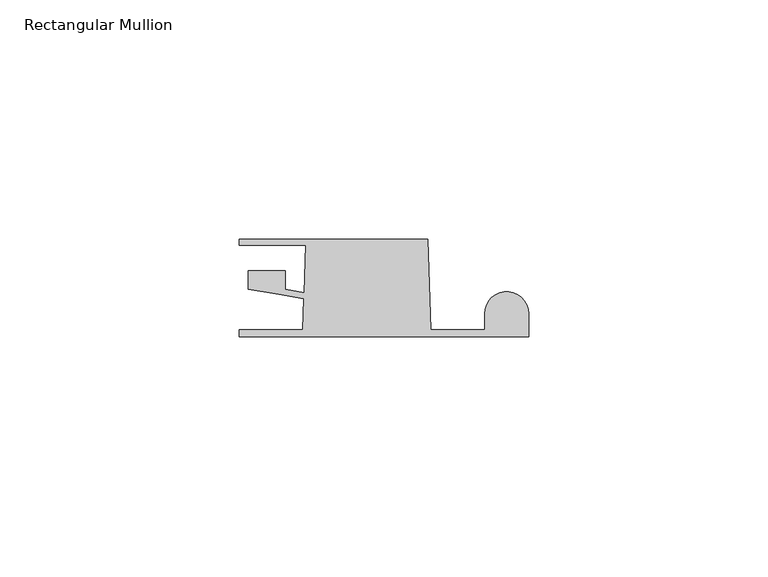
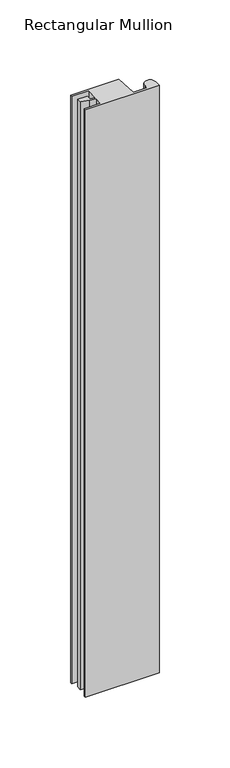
"""IFC4 building model written with IfcOpenShell, lengths in millimetres: member geometry, Rectangular Mullion : QuickPanel-Absolute_Multi-Angle-Inside-Corner-Trim-Left."""

from ifc_helpers import new_model, si_unit, point, frame, frame_2d, origin, place, context, project, spatial, polyline, circle_curve, trimmed, segment, composite_curve, outline, extrude, source, transform, mapped, element, save


def rectangular_mullion_94220d95(model_context):
    return source(origin(), model_context, "Body", "SweptSolid", [
        extrude(outline(composite_curve([segment(polyline([(-60.3420745, -8.095605), (-60.3420745, -6.6935423), (-47.1011618, -6.6935423), (-46.8743766, -0.1992641), (-52.1246575, 0.7008023), (-58.5599901, 1.8040245), (-58.5599901, 5.6493034), (-50.815217, 5.6493034), (-50.815217, 1.7648465), (-46.8296481, 1.0815922), (-46.485721, 10.9303752), (-60.3420745, 10.9303752), (-60.3420745, 12.1803727), (-21.0443089, 12.1803727), (-20.3850086, -6.6995181), (-9.144, -6.6995181), (-9.144, -3.3003083)]), True, "CONTINUOUS"), segment(trimmed(circle_curve(frame_2d((-4.572, -3.3003083)), 4.572), [point((-9.144, -3.3003083))], [point((0.0, -3.3003083))], False, "CARTESIAN"), True, "CONTINUOUS"), segment(polyline([(0.0, -3.3003083), (0.0, -8.095605), (-60.3420745, -8.095605)]), True, "CONTINUOUS")], self_intersect=False)), frame((0.0, 0.0, -506.5685975), z_axis=(0.0, 0.0, 1.0), x_axis=(1.0, 0.0, 0.0)), (0.0, 0.0, 1.0), 506.5685975),
    ])


if __name__ == "__main__":
    model = new_model("IFC4")
    model_context = context("Model", 3, world=origin())
    ifc_project = project(units=[si_unit("LENGTHUNIT", "METRE", prefix="MILLI")], contexts=[model_context])
    site = spatial("IfcSite", under=ifc_project)
    building = spatial("IfcBuilding", under=site)
    placement = place(None, origin())
    rectangular_mullion_shape = rectangular_mullion_94220d95(model_context)
    element("IfcMember", 1, ObjectType="Rectangular Mullion : QuickPanel-Absolute_Multi-Angle-Inside-Corner-Trim-Left", at=placement, inside=building, context=model_context, shape_type="MappedRepresentation", body=[
        mapped(rectangular_mullion_shape, transform((0.0, 0.0, 0.0), x_axis=(1.0, 0.0, 0.0), y_axis=(0.0, 1.0, 0.0), z_axis=(0.0, 0.0, 1.0))),
    ])
    save(model, "model.ifc")
